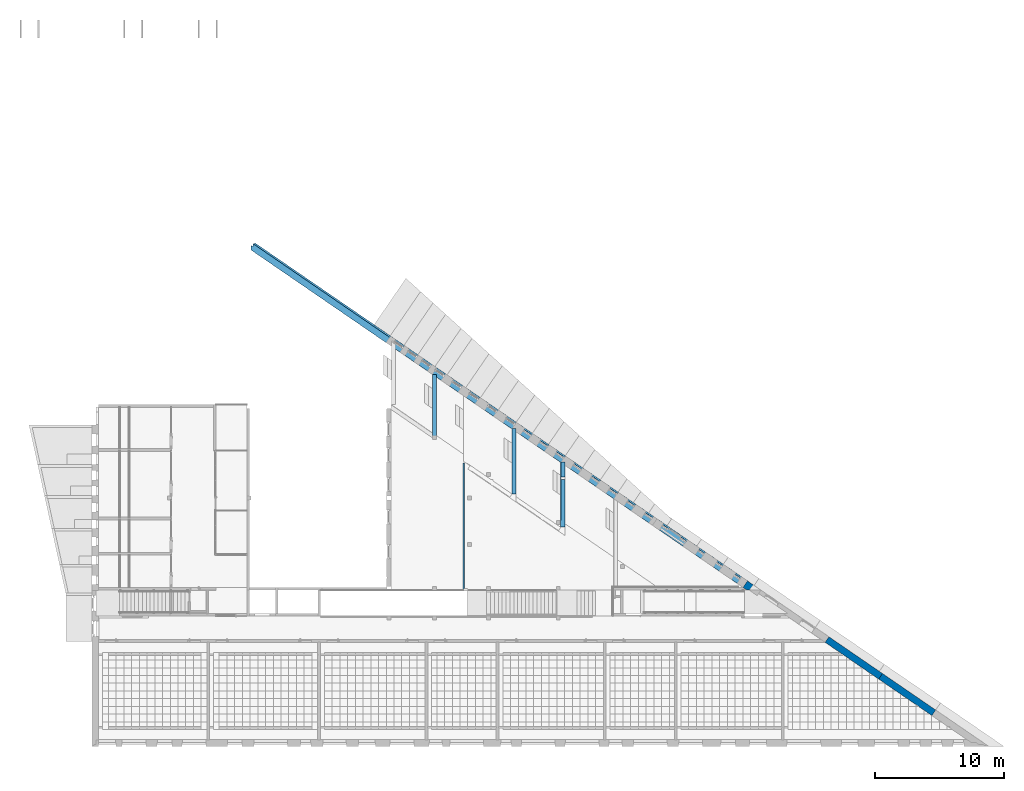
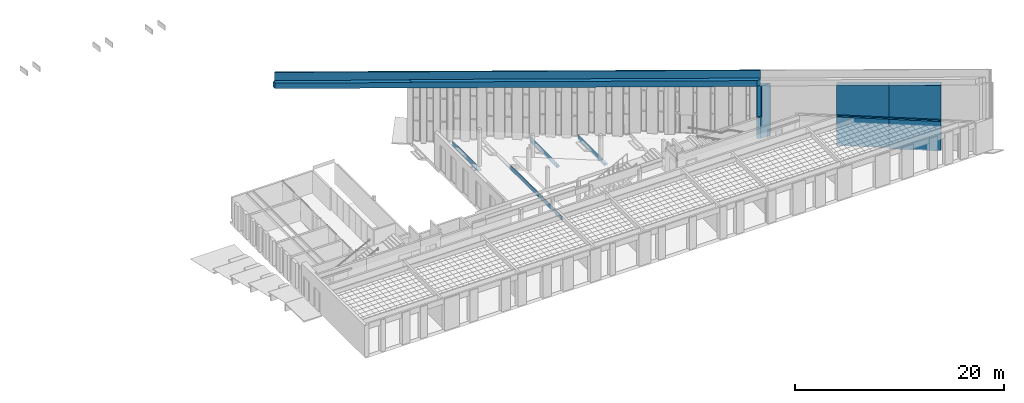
# One storey, part 45 of 79: 8 walls.
"""IFC2X3 building model written with IfcOpenShell, lengths in millimetres."""

import ifcopenshell
import ifcopenshell.guid

model = None  # the IFC model being written
_history = None  # IfcOwnerHistory: only IFC2X3 demands one
_inside = {}  # id of a spatial element -> (the spatial element, [elements in it])
_under = {}  # id of a project, library or spatial element -> (it, [spatial elements below it])
_declared = {}  # id of a project -> (the project, [libraries it declares])
_typed = {}  # id of a type object -> (the type object, [elements of that type])
_made_of = {}  # id of a material, layer set ... -> (it, [elements and type objects made of it])


def new_model(schema):
    """Start an empty IFC model of exactly this schema.

    Asked for "IFC4X3", IfcOpenShell would pick the latest addendum, in which some entities
    have other attributes; the version numbers below select the first issue.
    IFC2X3 requires an IfcOwnerHistory on every rooted entity: one is made here for all.
    """
    global model, _history
    if schema == "IFC4X3":
        model = ifcopenshell.file(schema_version=(4, 3, 0, 0))
    else:
        model = ifcopenshell.file(schema=schema)
    _inside.clear()
    _under.clear()
    _declared.clear()
    _typed.clear()
    _made_of.clear()
    _history = None
    if model.schema == "IFC2X3":
        org = make("IfcOrganization", Name="unknown")
        user = make(
            "IfcPersonAndOrganization",
            ThePerson=make("IfcPerson", FamilyName="unknown"),
            TheOrganization=org,
        )
        app = make(
            "IfcApplication",
            ApplicationDeveloper=org,
            Version="unknown",
            ApplicationFullName="unknown",
            ApplicationIdentifier="unknown",
        )
        _history = make(
            "IfcOwnerHistory",
            OwningUser=user,
            OwningApplication=app,
            ChangeAction="ADDED",
            CreationDate=0,
        )
    return model


def make(cls, **values):
    """One entity of the class cls with the attributes given. An attribute that is None is left unset."""
    return model.create_entity(
        cls, **{name: value for name, value in values.items() if value is not None}
    )


def entity(cls, *values):
    """Any entity or typed value of the class cls, its attributes in the order of the schema. None: left unset."""
    e = model.create_entity(cls)
    for i, value in enumerate(values):
        if value is not None:
            e[i] = value
    return e


def rooted(cls, **values):
    """An entity with a GlobalId (a new one), such as an element, a storey or a relation."""
    return make(cls, GlobalId=ifcopenshell.guid.new(), OwnerHistory=_history, **values)


def si_unit(unit_type, name, prefix=None):
    """IfcSIUnit, for example si_unit("LENGTHUNIT", "METRE", prefix="MILLI")."""
    return make("IfcSIUnit", UnitType=unit_type, Prefix=prefix, Name=name)


def converted_unit(unit_type, name, factor, base, dimensions=None, offset=None):
    """IfcConversionBasedUnit, such as the inch: factor (a typed value) times the base unit."""
    return make(
        "IfcConversionBasedUnit"
        if offset is None
        else "IfcConversionBasedUnitWithOffset",
        ConversionOffset=offset,
        Dimensions=None
        if dimensions is None
        else entity("IfcDimensionalExponents", *dimensions),
        UnitType=unit_type,
        Name=name,
        ConversionFactor=make(
            "IfcMeasureWithUnit", ValueComponent=factor, UnitComponent=base
        ),
    )


def derived_unit(unit_type, elements):
    """IfcDerivedUnit: a product of units, each with its exponent."""
    return make(
        "IfcDerivedUnit",
        Elements=[
            make("IfcDerivedUnitElement", Unit=unit, Exponent=power)
            for unit, power in elements
        ],
        UnitType=unit_type,
    )


def money_unit(currency):
    """IfcMonetaryUnit."""
    return make("IfcMonetaryUnit", Currency=currency)


def assignment(units):
    """IfcUnitAssignment: the units of a project."""
    return None if units is None else make("IfcUnitAssignment", Units=units)


def point(xyz):
    """IfcCartesianPoint."""
    return None if xyz is None else make("IfcCartesianPoint", Coordinates=xyz)


def direction(xyz):
    """IfcDirection."""
    return None if xyz is None else make("IfcDirection", DirectionRatios=xyz)


def frame(location, z_axis=None, x_axis=None):
    """IfcAxis2Placement3D, a coordinate frame: its origin and axes. An axis left out is left unset."""
    return make(
        "IfcAxis2Placement3D",
        Location=point(location),
        Axis=direction(z_axis),
        RefDirection=direction(x_axis),
    )


def origin_with_axes():
    """The frame at (0, 0, 0) with the z axis (0, 0, 1) and the x axis (1, 0, 0) written out."""
    return frame((0.0, 0.0, 0.0), z_axis=(0.0, 0.0, 1.0), x_axis=(1.0, 0.0, 0.0))


def place(relative_to, where):
    """IfcLocalPlacement: puts the frame where relative to a parent placement (None: the world)."""
    return make(
        "IfcLocalPlacement", PlacementRelTo=relative_to, RelativePlacement=where
    )


def context(
    kind, dimensions, precision=None, world=None, true_north=None, identifier=None
):
    """IfcGeometricRepresentationContext, for example the 3D "Model" context."""
    return make(
        "IfcGeometricRepresentationContext",
        ContextIdentifier=identifier,
        ContextType=kind,
        CoordinateSpaceDimension=dimensions,
        Precision=precision,
        WorldCoordinateSystem=world,
        TrueNorth=true_north,
    )


def subcontext(parent, identifier, kind, view, scale=None):
    """IfcGeometricRepresentationSubContext, for example "Body" below "Model"."""
    return make(
        "IfcGeometricRepresentationSubContext",
        ContextIdentifier=identifier,
        ContextType=kind,
        ParentContext=parent,
        TargetScale=scale,
        TargetView=view,
    )


def project(units=None, contexts=None):
    """IfcProject with its units and contexts."""
    return rooted(
        "IfcProject",
        Name="project",
        RepresentationContexts=contexts,
        UnitsInContext=assignment(units),
    )


def spatial(cls, under=None, at=None, **own):
    """A site, building, storey or space (cls), placed at a placement, below another one or the project."""
    s = rooted(cls, ObjectPlacement=at, **own)
    if under is not None:
        _under.setdefault(under.id(), (under, []))[1].append(s)
    return s


def faces_of(points, faces, orient=None, outer=None):
    """IfcFace entities. A face is a list of loops; a loop is a list of indices into points, from 0.

    orient and outer hold one flag for each loop. By default every Orientation is true, the
    first loop of a face is its IfcFaceOuterBound and the others are IfcFaceBound.
    """
    made = []
    for i, loops in enumerate(faces):
        bounds = []
        for j, loop in enumerate(loops):
            is_outer = j == 0 if outer is None else outer[i][j]
            bounds.append(
                make(
                    "IfcFaceOuterBound" if is_outer else "IfcFaceBound",
                    Bound=make("IfcPolyLoop", Polygon=[points[k] for k in loop]),
                    Orientation=True if orient is None else orient[i][j],
                )
            )
        made.append(make("IfcFace", Bounds=bounds))
    return made


def faceted_brep(points, faces, orient=None, outer=None, voids=None):
    """IfcFacetedBrep: a solid bounded by flat faces; with voids (closed shells), ...WithVoids."""
    shared = [point(p) for p in points]
    hull = make("IfcClosedShell", CfsFaces=faces_of(shared, faces, orient, outer))
    if voids is None:
        return make("IfcFacetedBrep", Outer=hull)
    return make(
        "IfcFacetedBrepWithVoids",
        Outer=hull,
        Voids=[
            make(cls, CfsFaces=faces_of(shared, fs, o, b)) for cls, fs, o, b in voids
        ],
    )


def shape(context_of_items, identifier, shape_type, items):
    """IfcShapeRepresentation: the items that make up one representation, for example the "Body"."""
    return make(
        "IfcShapeRepresentation",
        ContextOfItems=context_of_items,
        RepresentationIdentifier=identifier,
        RepresentationType=shape_type,
        Items=items,
    )


def material(Name=None, Category=None):
    """IfcMaterial."""
    return make("IfcMaterial", Name=Name, Category=Category)


def material_list(materials):
    """IfcMaterialList."""
    return make("IfcMaterialList", Materials=materials)


def made_of(thing, what):
    """Note that an element or type object is made of a material, layer set ...; save() writes the relation."""
    if what is not None:
        _made_of.setdefault(what.id(), (what, []))[1].append(thing)
    return thing


def type_object(cls, material=None, **own):
    """A type object (cls), such as IfcWallType, which elements share."""
    return made_of(rooted(cls, **own), material)


def element(
    cls,
    number,
    at=None,
    inside=None,
    cuts=None,
    type_object=None,
    material=None,
    context=None,
    identifier="Body",
    shape_type=None,
    held_by="IfcProductDefinitionShape",
    body=None,
    shapes=None,
    **own,
):
    """One element of the class cls, such as IfcWall. Its Tag is "e" and its number.

    at: its placement. inside: the storey or other place that contains it. cuts: it is an
    opening in that element (IfcRelVoidsElement). A single representation is given by context,
    identifier, shape_type and body (its items); several are given by shapes. held_by: the class
    of the entity that holds the representations. save() writes the other relations.
    """
    e = rooted(cls, Tag="e%d" % number, ObjectPlacement=at, **own)
    if body is not None:
        shapes = [shape(context, identifier, shape_type, body)]
    if shapes is not None:
        e.Representation = make(held_by, Representations=shapes)
    if inside is not None:
        _inside.setdefault(inside.id(), (inside, []))[1].append(e)
    if cuts is not None:
        rooted(
            "IfcRelVoidsElement", RelatingBuildingElement=cuts, RelatedOpeningElement=e
        )
    if type_object is not None:
        _typed.setdefault(type_object.id(), (type_object, []))[1].append(e)
    return made_of(e, material)


def aggregate(whole, parts):
    """IfcRelAggregates: a whole, such as a stair, and the parts it consists of."""
    return rooted("IfcRelAggregates", RelatingObject=whole, RelatedObjects=parts)


def save(model, path):
    """Write the relations noted so far, then the file.

    IfcRelAggregates (storeys below a building ...), IfcRelContainedInSpatialStructure (elements
    in a storey), IfcRelDefinesByType, IfcRelAssociatesMaterial and IfcRelDeclares: one each for
    every whole, place, type object, material and project.
    """
    for whole, parts in _under.values():
        aggregate(whole, parts)
    for where, things in _inside.values():
        rooted(
            "IfcRelContainedInSpatialStructure",
            RelatedElements=things,
            RelatingStructure=where,
        )
    for kind, things in _typed.values():
        rooted("IfcRelDefinesByType", RelatedObjects=things, RelatingType=kind)
    for what, things in _made_of.values():
        rooted("IfcRelAssociatesMaterial", RelatedObjects=things, RelatingMaterial=what)
    for by, libraries in _declared.values():
        rooted("IfcRelDeclares", RelatingContext=by, RelatedDefinitions=libraries)
    model.write(path)


model = new_model("IFC2X3")

# Units and contexts
model_context = context("Model", 3, precision=0.01, world=origin_with_axes(), true_north=direction((0.0, 1.0)))
body_context = subcontext(model_context, "Body", "Model", "MODEL_VIEW")
ifc_project = project(units=[si_unit("LENGTHUNIT", "METRE", prefix="MILLI"), si_unit("AREAUNIT", "SQUARE_METRE"), si_unit("VOLUMEUNIT", "CUBIC_METRE"), converted_unit("PLANEANGLEUNIT", "DEGREE", entity("IfcPlaneAngleMeasure", 0.0174532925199), si_unit("PLANEANGLEUNIT", "RADIAN"), dimensions=[0, 0, 0, 0, 0, 0, 0]), si_unit("SOLIDANGLEUNIT", "STERADIAN"), money_unit("EUR"), converted_unit("TIMEUNIT", "Year", entity("IfcTimeMeasure", 31556926.0), si_unit("TIMEUNIT", "SECOND"), dimensions=[0, 0, 1, 0, 0, 0, 0]), si_unit("MASSUNIT", "GRAM", prefix="KILO"), si_unit("THERMODYNAMICTEMPERATUREUNIT", "DEGREE_CELSIUS"), si_unit("LUMINOUSINTENSITYUNIT", "LUMEN"), si_unit("ENERGYUNIT", "JOULE", prefix="MEGA"), derived_unit("THERMALCONDUCTANCEUNIT", [(si_unit("POWERUNIT", "WATT"), 1), (si_unit("LENGTHUNIT", "METRE"), -1), (si_unit("THERMODYNAMICTEMPERATUREUNIT", "KELVIN"), -1)]), derived_unit("SPECIFICHEATCAPACITYUNIT", [(si_unit("ENERGYUNIT", "JOULE"), 1), (si_unit("MASSUNIT", "GRAM", prefix="KILO"), -1), (si_unit("THERMODYNAMICTEMPERATUREUNIT", "KELVIN"), -1)]), derived_unit("MASSDENSITYUNIT", [(si_unit("MASSUNIT", "GRAM", prefix="KILO"), 1), (si_unit("VOLUMEUNIT", "CUBIC_METRE"), -1)])], contexts=[model_context])

# Site, building, storey
site_placement = place(None, origin_with_axes())
site = spatial("IfcSite", under=ifc_project, at=site_placement, Name="L.Koidula tn 11b", CompositionType="ELEMENT")
building_placement = place(site_placement, origin_with_axes())
building = spatial("IfcBuilding", under=site, at=building_placement, Name="Rakvere Riigigümnaasium", CompositionType="ELEMENT")
storey_placement = place(building_placement, frame((0.0, 0.0, 3720.0), z_axis=(0.0, 0.0, 1.0), x_axis=(1.0, 0.0, 0.0)))
storey = spatial("IfcBuildingStorey", under=building, at=storey_placement, Name="2.korrus +3,72", CompositionType="ELEMENT", Elevation=3720.0)

# Walls
ifc_material_1 = material(Name="Krohv")
ifc_material_2 = material(Name="Betoon-element")
ifc_material_3 = material(Name="FF-PIR soojustus")
ifc_material_4 = material(Name="Tuuletõke (RKL Facade)")
ifc_material_5 = material(Name="Salto-roovitus")
ifc_material_6 = material(Name="Puit-fassaad")
ifc_material_list_1 = material_list([ifc_material_1, ifc_material_2, ifc_material_3, ifc_material_4, ifc_material_5, ifc_material_5, ifc_material_6])
wall_type_1 = type_object("IfcWallType", Name="VS-01-1 524", PredefinedType="NOTDEFINED")
wall_1_placement = place(storey_placement, frame((100138.361604, 7390.70532405, -171.79633169), z_axis=(0.0, 0.0, 1.0), x_axis=(-0.824666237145, 0.565619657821, 0.0)))
element("IfcWall", 1, at=wall_1_placement, inside=storey, type_object=wall_type_1, material=ifc_material_list_1, Name="Välissein", context=body_context, shape_type="Brep", body=[
    faceted_brep([(5000.00022515, 0.0, 7456.20661279), (0.0, 0.0, 7753.3891378), (0.0, 0.0, 3891.79633169), (5000.00022515, 0.0, 3891.79633169), (0.0, 10.0, 7753.3891378), (5000.00022515, 10.0, 7456.20661279), (0.0, 10.0, 3891.79633169), (5000.00022515, 10.0, 3891.79633169)], [[[0, 1, 2, 3]], [[4, 1, 0, 5]], [[1, 4, 6, 2]], [[6, 7, 3, 2]], [[5, 0, 3, 7]], [[4, 5, 7, 6]]]),
    faceted_brep([(5000.00022515, 0.0, 3496.79633169), (0.0, 0.0, 3496.79633169), (0.0, 0.0, 171.79633169), (5000.00022515, 0.0, 171.79633169), (0.0, 10.0, 3496.79633169), (5000.00022515, 10.0, 3496.79633169), (0.0, 10.0, 171.79633169), (5000.00022515, 10.0, 171.79633169)], [[[0, 1, 2, 3]], [[4, 1, 0, 5]], [[1, 4, 6, 2]], [[3, 2, 6, 7]], [[5, 0, 3, 7]], [[4, 5, 7, 6]]]),
    faceted_brep([(5000.00022515, -200.0, 7456.20661287), (0.0, -200.0, 7753.38913788), (0.0, -200.0, 41.7963316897), (5000.00022515, -200.0, 41.7963316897), (0.0, 0.0, 7753.3891378), (5000.00022515, 0.0, 7456.20661279), (0.0, 0.0, 3761.79633169), (0.0, -199.982393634, 3761.79633169), (0.0, -199.982393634, 3496.79633169), (0.0, 0.0, 3496.79633169), (0.0, 0.0, 41.7963316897), (5000.00022515, 0.0, 41.7963316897), (5000.00022515, 0.0, 3496.79633169), (5000.00022515, -199.983724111, 3496.79633169), (5000.00022515, -199.983724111, 3761.79633169), (5000.00022515, 0.0, 3761.79633169)], [[[0, 1, 2, 3]], [[4, 1, 0, 5]], [[1, 4, 6, 7, 8, 9, 10, 2]], [[10, 11, 3, 2]], [[5, 0, 3, 11, 12, 13, 14, 15]], [[4, 5, 15, 6]], [[15, 14, 7, 6]], [[14, 13, 8, 7]], [[13, 12, 9, 8]], [[11, 10, 9, 12]]]),
    faceted_brep([(5000.00022515, -380.0, 7456.20661294), (0.0, -380.0, 7753.38913796), (0.0, -380.0, 0.0), (5000.00022515, -380.0, 0.0), (0.0, -200.0, 7753.38913788), (5000.00022515, -200.0, 7456.20661287), (0.0, -200.0, 0.0), (5000.00022515, -200.0, 0.0)], [[[0, 1, 2, 3]], [[4, 1, 0, 5]], [[1, 4, 6, 2]], [[2, 6, 7, 3]], [[5, 0, 3, 7]], [[4, 5, 7, 6]]]),
    faceted_brep([(5000.00022515, -430.0, 7456.20661296), (0.0, -430.0, 7753.38913798), (0.0, -430.0, 0.0), (5000.00022515, -430.0, 0.0), (0.0, -380.0, 7753.38913796), (5000.00022515, -380.0, 7456.20661294), (0.0, -380.0, 0.0), (5000.00022515, -380.0, 0.0)], [[[0, 1, 2, 3]], [[4, 1, 0, 5]], [[1, 4, 6, 2]], [[2, 6, 7, 3]], [[5, 0, 3, 7]], [[4, 5, 7, 6]]]),
    faceted_brep([(5000.00022515, -462.0, 7456.20661298), (0.0, -462.0, 7753.38913799), (0.0, -462.0, 0.0), (5000.00022515, -462.0, 0.0), (0.0, -430.0, 7753.38913798), (5000.00022515, -430.0, 7456.20661296), (0.0, -430.0, 0.0), (5000.00022515, -430.0, 0.0)], [[[0, 1, 2, 3]], [[4, 1, 0, 5]], [[1, 4, 6, 2]], [[2, 6, 7, 3]], [[5, 0, 3, 7]], [[4, 5, 7, 6]]]),
    faceted_brep([(5000.00022515, -494.0, 7456.20661299), (0.0, -494.0, 7753.389138), (0.0, -494.0, 0.0), (5000.00022515, -494.0, 0.0), (0.0, -462.0, 7753.38913799), (5000.00022515, -462.0, 7456.20661298), (0.0, -462.0, 0.0), (5000.00022515, -462.0, 0.0)], [[[0, 1, 2, 3]], [[4, 1, 0, 5]], [[1, 4, 6, 2]], [[2, 6, 7, 3]], [[5, 0, 3, 7]], [[4, 5, 7, 6]]]),
    faceted_brep([(5000.00022515, -514.0, 7456.206613), (0.0, -514.0, 7753.38913801), (0.0, -514.0, 0.0), (5000.00022515, -514.0, 0.0), (0.0, -494.0, 7753.389138), (5000.00022515, -494.0, 7456.20661299), (0.0, -494.0, 0.0), (5000.00022515, -494.0, 0.0)], [[[0, 1, 2, 3]], [[4, 1, 0, 5]], [[1, 4, 6, 2]], [[2, 6, 7, 3]], [[5, 0, 3, 7]], [[4, 5, 7, 6]]]),
])
wall_2_placement = place(storey_placement, frame((96015.0302323, 10218.8037405, 0.0), z_axis=(0.0, 0.0, 1.0), x_axis=(-0.824666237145, 0.565619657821, 0.0)))
element("IfcWall", 2, at=wall_2_placement, inside=storey, type_object=wall_type_1, material=ifc_material_list_1, Name="Välissein", context=body_context, shape_type="Brep", body=[
    faceted_brep([(5041.63989318, 0.0, 6984.75283986), (0.0, 0.0, 7284.4102811), (0.0, 0.0, 3720.0), (5041.63989318, 0.0, 3720.0), (0.0, 10.0, 7284.4102811), (5041.63989318, 10.0, 6984.75283986), (0.0, 10.0, 3720.0), (5041.63989318, 10.0, 3720.0)], [[[0, 1, 2, 3]], [[4, 1, 0, 5]], [[1, 4, 6, 2]], [[6, 7, 3, 2]], [[5, 0, 3, 7]], [[4, 5, 7, 6]]]),
    faceted_brep([(5041.63989318, 0.0, 3325.0), (0.0, 0.0, 3325.0), (0.0, 0.0, 0.0), (5041.63989318, 0.0, 0.0), (0.0, 10.0, 3325.0), (5041.63989318, 10.0, 3325.0), (0.0, 10.0, 0.0), (5041.63989318, 10.0, 0.0)], [[[0, 1, 2, 3]], [[4, 1, 0, 5]], [[1, 4, 6, 2]], [[6, 7, 3, 2]], [[5, 0, 3, 7]], [[4, 5, 7, 6]]]),
    faceted_brep([(5041.63989318, -200.0, 6984.75283994), (0.0, -200.0, 7284.41028118), (0.0, -200.0, 0.0), (5041.63989318, -200.0, 0.0), (0.0, 0.0, 7284.4102811), (5041.63989318, 0.0, 6984.75283986), (0.0, 0.0, 3590.0), (0.0, -199.983724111, 3590.0), (0.0, -199.983724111, 3325.0), (0.0, 0.0, 3325.0), (0.0, 0.0, 0.0), (5041.63989318, 0.0, 0.0), (5041.63989318, 0.0, 3325.0), (5041.63989318, -199.985065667, 3325.0), (5041.63989318, -199.985065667, 3590.0), (5041.63989318, 0.0, 3590.0)], [[[0, 1, 2, 3]], [[4, 1, 0, 5]], [[1, 4, 6, 7, 8, 9, 10, 2]], [[3, 2, 10, 11]], [[5, 0, 3, 11, 12, 13, 14, 15]], [[4, 5, 15, 6]], [[15, 14, 7, 6]], [[14, 13, 8, 7]], [[8, 13, 12, 9]], [[11, 10, 9, 12]]]),
    faceted_brep([(5041.63989318, -380.0, 6984.75284001), (0.0, -380.0, 7284.41028125), (0.0, -380.0, 0.0), (5041.63989318, -380.0, 0.0), (0.0, -200.0, 7284.41028118), (5041.63989318, -200.0, 6984.75283994), (0.0, -200.0, 0.0), (5041.63989318, -200.0, 0.0)], [[[0, 1, 2, 3]], [[4, 1, 0, 5]], [[1, 4, 6, 2]], [[2, 6, 7, 3]], [[5, 0, 3, 7]], [[4, 5, 7, 6]]]),
    faceted_brep([(5041.63989318, -430.0, 6984.75284003), (0.0, -430.0, 7284.41028127), (0.0, -430.0, 0.0), (5041.63989318, -430.0, 0.0), (0.0, -380.0, 7284.41028125), (5041.63989318, -380.0, 6984.75284001), (0.0, -380.0, 0.0), (5041.63989318, -380.0, 0.0)], [[[0, 1, 2, 3]], [[4, 1, 0, 5]], [[1, 4, 6, 2]], [[2, 6, 7, 3]], [[5, 0, 3, 7]], [[4, 5, 7, 6]]]),
    faceted_brep([(5041.63989318, -462.0, 6984.75284005), (0.0, -462.0, 7284.41028129), (0.0, -462.0, 0.0), (5041.63989318, -462.0, 0.0), (0.0, -430.0, 7284.41028127), (5041.63989318, -430.0, 6984.75284003), (0.0, -430.0, 0.0), (5041.63989318, -430.0, 0.0)], [[[0, 1, 2, 3]], [[4, 1, 0, 5]], [[1, 4, 6, 2]], [[2, 6, 7, 3]], [[5, 0, 3, 7]], [[4, 5, 7, 6]]]),
    faceted_brep([(5041.63989318, -494.0, 6984.75284006), (0.0, -494.0, 7284.4102813), (0.0, -494.0, 0.0), (5041.63989318, -494.0, 0.0), (0.0, -462.0, 7284.41028129), (5041.63989318, -462.0, 6984.75284005), (0.0, -462.0, 0.0), (5041.63989318, -462.0, 0.0)], [[[0, 1, 2, 3]], [[4, 1, 0, 5]], [[1, 4, 6, 2]], [[2, 6, 7, 3]], [[5, 0, 3, 7]], [[4, 5, 7, 6]]]),
    faceted_brep([(5041.63989318, -514.0, 6984.75284007), (0.0, -514.0, 7284.41028131), (0.0, -514.0, 0.0), (5041.63989318, -514.0, 0.0), (0.0, -494.0, 7284.4102813), (5041.63989318, -494.0, 6984.75284006), (0.0, -494.0, 0.0), (5041.63989318, -494.0, 0.0)], [[[0, 1, 2, 3]], [[4, 1, 0, 5]], [[1, 4, 6, 2]], [[2, 6, 7, 3]], [[5, 0, 3, 7]], [[4, 5, 7, 6]]]),
])
ifc_material_list_2 = material_list([ifc_material_2, ifc_material_3, ifc_material_4, ifc_material_5, ifc_material_5, ifc_material_6])
wall_type_2 = type_object("IfcWallType", Name="VS-02 614", PredefinedType="NOTDEFINED")
wall_3_placement = place(storey_placement, frame((85790.2926748, 17110.4555416, 465.0), z_axis=(0.0, 0.0, 1.0), x_axis=(-0.824666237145, 0.565619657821, 0.0)))
element("IfcWall", 3, at=wall_3_placement, inside=storey, type_object=wall_type_2, material=ifc_material_list_2, Name="Välissein", context=body_context, shape_type="Brep", body=[
    faceted_brep([(373.15528873, -299.997277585, 6064.3762154), (39.2779555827, -299.997277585, 6084.22071629), (-437.396215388, -299.99727796, 6112.55256176), (-437.396168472, -300.0, 0.0), (373.15528873, -300.0, 0.0), (373.15528873, 0.00272252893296, 6064.37621528), (353.59841739, 0.00272252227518, 6065.53860731), (39.2779555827, -215.582473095, 6084.22071626), (-32.6748431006, -264.933247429, 6088.49733896), (-145.798774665, -99.9972775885, 6095.22102972), (-145.798774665, -100.0, 2480.0), (-2.95301276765e-05, 1.53021844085e-05, 2480.0), (0.0, 0.0, 0.0), (373.15528873, 0.0, 0.0), (353.594447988, 0.0, 2480.0), (-32.6748431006, -264.933247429, 2480.0)], [[[0, 1, 2, 3, 4]], [[1, 0, 5, 6, 7, 8, 9, 2]], [[3, 2, 9, 10, 11, 12]], [[4, 3, 12, 13]], [[5, 0, 4, 13]], [[6, 5, 13, 12, 11, 14]], [[7, 6, 14, 15, 8]], [[10, 9, 8, 15]], [[11, 10, 15, 14]]]),
    faceted_brep([(373.15528873, -479.997277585, 6064.37621547), (39.2779555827, -479.997277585, 6084.22071636), (-699.833916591, -479.997278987, 6128.15094087), (-699.833869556, -480.0, 0.0), (373.15528873, -480.0, 0.0), (373.15528873, -299.997277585, 6064.3762154), (39.2779555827, -299.997277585, 6084.22071629), (-437.396215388, -299.99727796, 6112.55256176), (-437.396168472, -300.0, 0.0), (373.15528873, -300.0, 0.0)], [[[0, 1, 2, 3, 4]], [[1, 0, 5, 6, 7, 2]], [[3, 2, 7, 8]], [[3, 8, 9, 4]], [[5, 0, 4, 9]], [[6, 5, 9, 8, 7]]]),
    faceted_brep([(373.15528873, -529.997277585, 6064.37621549), (39.2779555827, -529.997277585, 6084.22071638), (-772.733278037, -529.997278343, 6132.48382396), (-772.733230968, -530.0, 0.0), (373.15528873, -530.0, 0.0), (373.15528873, -479.997277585, 6064.37621547), (39.2779555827, -479.997277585, 6084.22071636), (-699.833916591, -479.997278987, 6128.15094087), (-699.833869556, -480.0, 0.0), (373.15528873, -480.0, 0.0)], [[[0, 1, 2, 3, 4]], [[1, 0, 5, 6, 7, 2]], [[3, 2, 7, 8]], [[3, 8, 9, 4]], [[5, 0, 4, 9]], [[6, 5, 9, 8, 7]]]),
    faceted_brep([(373.15528873, -561.997277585, 6064.37621551), (39.2779555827, -561.997277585, 6084.22071639), (-819.388869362, -561.997277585, 6135.25686913), (-819.388822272, -562.0, 0.0), (373.15528873, -562.0, 0.0), (373.15528873, -529.997277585, 6064.37621549), (39.2779555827, -529.997277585, 6084.22071638), (-772.733278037, -529.997278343, 6132.48382396), (-772.733230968, -530.0, 0.0), (373.15528873, -530.0, 0.0)], [[[0, 1, 2, 3, 4]], [[1, 0, 5, 6, 7, 2]], [[3, 2, 7, 8]], [[3, 8, 9, 4]], [[5, 0, 4, 9]], [[6, 5, 9, 8, 7]]]),
    faceted_brep([(373.15528873, -593.997277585, 6064.37621552), (39.2779555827, -593.997277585, 6084.22071641), (-866.044460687, -593.997277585, 6138.02991431), (-866.044413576, -594.0, 0.0), (373.15528873, -594.0, 0.0), (373.15528873, -561.997277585, 6064.37621551), (39.2779555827, -561.997277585, 6084.22071639), (-819.388869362, -561.997277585, 6135.25686913), (-819.388822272, -562.0, 0.0), (373.15528873, -562.0, 0.0)], [[[0, 1, 2, 3, 4]], [[1, 0, 5, 6, 7, 2]], [[3, 2, 7, 8]], [[3, 8, 9, 4]], [[5, 0, 4, 9]], [[6, 5, 9, 8, 7]]]),
    faceted_brep([(373.15528873, -614.0, 6064.37621553), (39.2779555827, -614.0, 6084.22071642), (-895.204205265, -614.0, 6139.76306754), (-895.20415814, -614.0, 0.0), (373.15528873, -614.0, 0.0), (373.15528873, -593.997277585, 6064.37621552), (39.2779555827, -593.997277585, 6084.22071641), (-866.044460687, -593.997277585, 6138.02991431), (-866.044413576, -594.0, 0.0), (373.15528873, -594.0, 0.0)], [[[0, 1, 2, 3, 4]], [[1, 0, 5, 6, 7, 2]], [[3, 2, 7, 8]], [[3, 8, 9, 4]], [[5, 0, 4, 9]], [[6, 5, 9, 8, 7]]]),
])
ifc_material_7 = material(Name="Parkett-2")
ifc_material_8 = material(Name="Viineer")
ifc_material_9 = material(Name="Betoon element / plaat")
ifc_material_list_3 = material_list([ifc_material_7, ifc_material_8, ifc_material_9])
wall_type_3 = type_object("IfcWallType", Name="SS-01-3 320", PredefinedType="NOTDEFINED")
wall_4_placement = place(storey_placement, frame((71359.9980729, 21997.8038188, -645.0), z_axis=(0.0, 0.0, 1.0), x_axis=(0.0, 1.0, 0.0)))
element("IfcWall", 4, at=wall_4_placement, inside=storey, type_object=wall_type_3, material=ifc_material_list_3, Name="Sisesein", context=body_context, shape_type="Brep", body=[
    faceted_brep([(520.949463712, 20.0000421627, 645.0), (520.949463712, 20.0000421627, 250.0), (520.949463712, 10.0, 250.0), (520.949463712, 10.0, 645.0), (5023.77736376, 20.0, 645.0), (5023.77736376, 20.0, 0.0), (3901.63341318, 20.0, 0.0), (3901.63341318, 20.0, 250.0), (3701.63341318, 20.0, 250.0), (3701.63341318, 20.0, 0.0), (0.0, 20.0, 0.0), (0.0, 20.0, 250.0), (0.0, 10.0, 250.0), (0.0, 10.0, 0.0), (3701.63341318, 10.0, 0.0), (3701.63341318, 10.0, 250.0), (3901.63341318, 10.0, 250.0), (3901.63341318, 10.0, 0.0), (5016.91857495, 10.0, 0.0), (5016.91857495, 10.0, 645.0)], [[[0, 1, 2, 3]], [[1, 0, 4, 5, 6, 7, 8, 9, 10, 11]], [[12, 2, 1, 11]], [[2, 12, 13, 14, 15, 16, 17, 18, 19, 3]], [[0, 3, 19, 4]], [[5, 4, 19, 18]], [[18, 17, 6, 5]], [[6, 17, 16, 7]], [[7, 16, 15, 8]], [[8, 15, 14, 9]], [[10, 9, 14, 13]], [[12, 11, 10, 13]]]),
    faceted_brep([(520.949463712, 10.0, 515.0), (520.949463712, 0.0, 515.0), (5010.05978614, 0.0, 515.0), (5016.91857495, 10.0, 515.0), (520.949463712, 0.0, 250.0), (520.949463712, 10.0, 250.0), (0.0, 0.0, 250.0), (0.0, 0.0, 0.0), (3701.63341318, 0.0, 0.0), (3701.63341318, 0.0, 250.0), (3901.63341318, 0.0, 250.0), (3901.63341318, 0.0, 0.0), (5010.05978614, 0.0, 0.0), (5016.91857495, 10.0, 0.0), (3901.63341318, 10.0, 0.0), (3901.63341318, 10.0, 250.0), (3701.63341318, 10.0, 250.0), (3701.63341318, 10.0, 0.0), (0.0, 10.0, 0.0), (0.0, 10.0, 250.0)], [[[0, 1, 2, 3]], [[4, 1, 0, 5]], [[4, 6, 7, 8, 9, 10, 11, 12, 2, 1]], [[3, 2, 12, 13]], [[5, 0, 3, 13, 14, 15, 16, 17, 18, 19]], [[6, 4, 5, 19]], [[6, 19, 18, 7]], [[18, 17, 8, 7]], [[16, 9, 8, 17]], [[15, 10, 9, 16]], [[14, 11, 10, 15]], [[12, 11, 14, 13]]]),
    faceted_brep([(3701.63341318, 0.0, 250.0), (0.0, 0.0, 250.0), (0.0, -300.0, 250.0), (3701.63341318, -300.0, 250.0), (3701.63341318, 0.0, 0.0), (0.0, 0.0, 0.0), (0.0, -300.0, 0.0), (3701.63341318, -300.0, 0.0)], [[[0, 1, 2, 3]], [[1, 0, 4, 5]], [[2, 1, 5, 6]], [[2, 6, 7, 3]], [[0, 3, 7, 4]], [[5, 4, 7, 6]]]),
    faceted_brep([(5048.76421209, 0.0, 250.0), (5048.76421209, -300.0, 250.0), (5048.76421209, -300.0, 0.0), (5048.76421209, 0.0, 0.0), (3901.63341318, -300.0, 250.0), (3901.63341318, 0.0, 250.0), (3901.63341318, -300.0, 0.0), (3901.63341318, 0.0, 0.0)], [[[0, 1, 2, 3]], [[4, 1, 0, 5]], [[1, 4, 6, 2]], [[2, 6, 7, 3]], [[5, 0, 3, 7]], [[4, 5, 7, 6]]]),
])
wall_5_placement = place(storey_placement, frame((61409.9996647, 28829.5740717, -2040.0), z_axis=(0.0, 0.0, 1.0), x_axis=(2.44272316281e-06, 0.999999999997, 0.0)))
element("IfcWall", 5, at=wall_5_placement, inside=storey, type_object=wall_type_3, material=ifc_material_list_3, Name="Sisesein", context=body_context, shape_type="Brep", body=[
    faceted_brep([(0.0, 10.0, 180.0), (91.3411958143, 10.0, 180.0), (91.3411958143, 10.0, 200.0), (0.0, 10.0, 200.0), (98.1851074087, 19.9789735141, 180.0), (0.0, 19.978733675, 180.0), (98.1851074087, 19.9789735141, 0.0), (98.1995280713, 20.0, 0.0), (98.1995280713, 20.0, 200.0), (0.0, 20.0, 200.0), (0.0, 20.0, 0.0), (0.0, 19.978733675, 0.0)], [[[0, 1, 2, 3]], [[4, 1, 0, 5]], [[4, 6, 7, 8, 2, 1]], [[9, 3, 2, 8]], [[5, 0, 3, 9, 10, 11]], [[6, 4, 5, 11]], [[6, 11, 10, 7]], [[10, 9, 8, 7]]]),
    faceted_brep([(5009.61365867, 10.0, 645.0), (5016.47239731, 20.0, 645.0), (474.10149563, 20.0, 645.0), (467.243163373, 10.0, 645.0), (5009.61365867, 10.0, 0.0), (5016.47239731, 20.0, 0.0), (474.10149563, 20.0, 0.0), (467.243163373, 10.0, 0.0)], [[[0, 1, 2, 3]], [[1, 0, 4, 5]], [[1, 5, 6, 2]], [[7, 3, 2, 6]], [[4, 0, 3, 7]], [[5, 4, 7, 6]]]),
    faceted_brep([(0.0, 0.0, 180.0), (84.4828635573, 0.0, 180.0), (84.4828635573, 0.0, 200.0), (0.0, 0.0, 200.0), (91.3411958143, 10.0, 180.0), (0.0, 10.0, 180.0), (91.3411958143, 10.0, 200.0), (0.0, 10.0, 200.0)], [[[0, 1, 2, 3]], [[4, 1, 0, 5]], [[1, 4, 6, 2]], [[7, 3, 2, 6]], [[5, 0, 3, 7]], [[4, 5, 7, 6]]]),
    faceted_brep([(5009.61365867, 10.0, 465.0), (5002.75492004, 0.0, 465.0), (5002.75492004, 0.0, 0.0), (5009.61365867, 10.0, 0.0), (448.258961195, 0.0, 465.0), (455.117293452, 10.0, 465.0), (448.258961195, 0.0, 0.0), (455.117293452, 10.0, 0.0)], [[[0, 1, 2, 3]], [[4, 1, 0, 5]], [[1, 4, 6, 2]], [[3, 2, 6, 7]], [[5, 0, 3, 7]], [[4, 5, 7, 6]]]),
    faceted_brep([(280.477504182, -280.020581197, 0.0), (280.476820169, 0.0, 0.0), (5016.47239731, 0.0, 0.0), (5016.47239731, -300.0, 0.0), (0.0, -300.0, 0.0), (0.0, -280.021266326, 0.0), (280.477504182, -280.020581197, 180.0), (280.476820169, 0.0, 180.0), (0.0, 0.0, 180.0), (0.0, 0.0, 200.0), (5016.47239731, 0.0, 200.0), (5016.47239731, -300.0, 200.0), (0.0, -300.0, 200.0), (0.0, -280.021266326, 180.0)], [[[0, 1, 2, 3, 4, 5]], [[1, 0, 6, 7]], [[7, 8, 9, 10, 2, 1]], [[2, 10, 11, 3]], [[11, 12, 4, 3]], [[13, 5, 4, 12, 9, 8]], [[0, 5, 13, 6]], [[13, 8, 7, 6]], [[11, 10, 9, 12]]]),
])
wall_6_placement = place(storey_placement, frame((67565.0095019, 24573.1133115, -1110.0), z_axis=(0.0, 0.0, 1.0), x_axis=(0.0, 1.0, 0.0)))
element("IfcWall", 6, at=wall_6_placement, inside=storey, type_object=wall_type_3, material=ifc_material_list_3, Name="Sisesein", context=body_context, shape_type="Brep", body=[
    faceted_brep([(5051.35913175, 20.0, 645.0), (14.3703837, 20.0, 645.0), (7.51441213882, 10.0, 645.0), (5044.5003726, 10.0, 645.0), (5051.35913175, 20.0, 0.0), (14.3703837, 20.0, 0.0), (7.51441213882, 10.0, 0.0), (5044.5003726, 10.0, 0.0)], [[[0, 1, 2, 3]], [[4, 5, 1, 0]], [[2, 1, 5, 6]], [[3, 2, 6, 7]], [[3, 7, 4, 0]], [[7, 6, 5, 4]]]),
    faceted_brep([(5044.5003726, 10.0, 465.0), (5037.64161344, 0.0, 465.0), (5037.64161344, 0.0, 0.0), (5044.5003726, 10.0, 0.0), (0.658440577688, 0.0, 465.0), (7.51441213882, 10.0, 465.0), (0.658440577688, 0.0, 0.0), (7.51441213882, 10.0, 0.0)], [[[0, 1, 2, 3]], [[4, 1, 0, 5]], [[1, 4, 6, 2]], [[3, 2, 6, 7]], [[5, 0, 3, 7]], [[4, 5, 7, 6]]]),
    faceted_brep([(5060.55792113, 0.0, 200.0), (5060.55792113, -300.0, 200.0), (5060.55792113, -300.0, 0.0), (5060.55792113, 0.0, 0.0), (0.0, -300.0, 200.0), (0.658440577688, 0.0, 200.0), (0.0, -0.960389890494, 200.0), (0.0, -300.0, 0.0), (0.658440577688, 0.0, 0.0), (0.0, -0.960389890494, 0.0)], [[[0, 1, 2, 3]], [[4, 1, 0, 5, 6]], [[1, 4, 7, 2]], [[8, 3, 2, 7, 9]], [[5, 0, 3, 8]], [[6, 5, 8, 9]], [[4, 6, 9, 7]]]),
])
ifc_material_10 = material(Name="Roovid-puit")
ifc_material_list_4 = material_list([ifc_material_2, ifc_material_3, ifc_material_4, ifc_material_10, ifc_material_10, ifc_material_10])
wall_type_4 = type_object("IfcWallType", Name="VS-10 626", PredefinedType="NOTDEFINED")
wall_7_placement = place(storey_placement, frame((85757.8999312, 17132.6696803, 3777.4289826), z_axis=(0.0, 0.0, 1.0), x_axis=(-0.824666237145, 0.565619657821, 0.0)))
element("IfcWall", 7, at=wall_7_placement, inside=storey, type_object=wall_type_4, material=ifc_material_list_4, Name="Välissein", context=body_context, shape_type="Brep", body=[
    faceted_brep([(314.316492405, -0.00272241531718, 3441.78377542), (0.0, -215.58519551, 3441.78377542), (0.0, -227.711313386, 3441.78377542), (331.996217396, -0.00272241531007, 3441.78377542), (0.0, -215.58519551, 2771.79173366), (314.320461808, 1.06965103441e-07, 2753.10962471), (0.0, -300.0, 2771.79173369), (0.0, -300.0, 3439.90722077), (0.0, -227.711313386, 3446.17352937), (332.000220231, 2.30374297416e-05, 3446.17964046), (33441.2564608, 0.00232048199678, 1478.28143509), (33441.2531904, 1.587058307e-05, 1422.97847462), (46634.5027882, 1.587058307e-05, 638.817856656), (46634.5027902, 1.58705759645e-05, 0.0), (46634.5027922, -300.0, 0.0), (46840.2659112, -300.000001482, 600.582664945), (33647.0163206, -300.0, 1384.74328261), (33647.0195911, -299.997695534, 1440.04624307), (46840.2659102, -300.0, 0.0)], [[[0, 1, 2, 3]], [[4, 1, 0, 5]], [[1, 4, 6, 7, 8, 2]], [[3, 2, 8, 9]], [[5, 0, 3, 9, 10, 11, 12, 13]], [[4, 5, 13, 14, 6]], [[15, 16, 17, 7, 6, 14, 18]], [[10, 9, 8, 7, 17]], [[11, 10, 17, 16]], [[12, 11, 16, 15]], [[18, 13, 12, 15]], [[13, 18, 14]]]),
    faceted_brep([(0.0, -480.0, 3424.30401092), (0.0, -480.0, 2771.79173376), (46634.5027934, -480.0, 0.0), (46745.45366, -480.0, 0.0), (46745.4536622, -480.000003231, 590.614763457), (33770.4741922, -480.0, 1361.80216862), (33770.4774628, -479.997695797, 1417.10512904), (0.0, -300.0, 2771.79173369), (0.0, -300.0, 3439.90722077), (46621.9957884, -300.000000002, 0.743372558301), (46634.5027923, -318.235051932, 0.0), (46621.9957895, -300.000001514, 613.555877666), (33647.0163206, -300.000000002, 1384.74328261), (33647.0195911, -299.997695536, 1440.04624307)], [[[0, 1, 2, 3, 4, 5, 6]], [[7, 1, 0, 8]], [[7, 9, 10, 2, 1]], [[10, 3, 2]], [[10, 9, 11, 4, 3]], [[4, 11, 12, 5]], [[5, 12, 13, 6]], [[6, 13, 8, 0]], [[8, 13, 12, 11, 9, 7]]]),
    faceted_brep([(14107.5859202, -530.000002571, 3483.28617042), (0.0, -530.0, 4318.23805813), (0.0, -530.0, 2771.79173378), (46634.5027937, -530.0, 0.0), (46719.1169238, -530.0, 0.0), (46719.1169297, -530.000008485, 1553.18561802), (46674.871208, -530.000008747, 1555.80428351), (46674.871208, -530.000008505, 1547.60064265), (0.0, -494.754069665, 4321.27944345), (2033.71482445, -494.75405623, 4200.91483787), (0.0, -494.754069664, 3423.02506179), (0.0, -480.0, 3424.30401092), (0.0, -480.0, 2771.79173376), (46634.5027934, -480.0, 0.0), (46684.8230706, -480.0, 0.0), (46693.9168004, -493.258541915, 1557.84751342), (46684.8230729, -480.00000325, 594.218433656), (46693.9168005, -493.258542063, 592.528624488), (46674.8712078, -493.257742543, 1558.97478826), (46674.8712078, -493.256237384, 1547.60064265), (33779.569212, -493.256727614, 2314.05228972), (33780.5960513, -494.753846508, 2313.99125798), (33780.5983682, -494.753846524, 1415.22444829), (33770.4774628, -479.997695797, 1417.10512904), (33779.5712509, -493.256322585, 1415.41530866), (33770.4741922, -480.0, 1361.80216862), (33779.5679803, -493.258626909, 1360.11234823)], [[[0, 1, 2, 3, 4, 5, 6, 7]], [[8, 1, 0, 9]], [[1, 8, 10, 11, 12, 2]], [[3, 2, 12, 13]], [[3, 13, 14, 4]], [[15, 5, 4, 14, 16, 17]], [[18, 6, 5, 15]], [[6, 18, 19, 7]], [[9, 0, 7, 19, 20, 21]], [[8, 9, 21, 22, 10]], [[23, 11, 10, 22, 24]], [[23, 25, 16, 14, 13, 12, 11]], [[25, 26, 17, 16]], [[18, 15, 17, 26, 24, 20, 19]], [[21, 20, 24, 22]], [[26, 25, 23, 24]]]),
    faceted_brep([(25069.5229412, -562.0, 2831.74697518), (0.0, -562.0, 4315.47676543), (0.0, -562.0, 2771.79173379), (46634.5027939, -562.0, 0.0), (46702.2614127, -562.0, 0.0), (46702.2614127, -562.0, 1551.42191315), (46674.8712082, -562.0, 1553.04299156), (46674.8712082, -562.0, 1547.60064265), (0.0, -530.0, 4318.23805813), (14107.5850396, -530.0, 3483.28622276), (0.0, -530.0, 2771.79173378), (46634.5027937, -530.0, 0.0), (46680.3133466, -530.0, 0.0), (46680.3133525, -530.000008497, 1555.48219237), (46674.871208, -530.000005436, 1555.8042838), (46674.871208, -530.0, 1547.60064265)], [[[0, 1, 2, 3, 4, 5, 6, 7]], [[8, 1, 0, 9]], [[1, 8, 10, 2]], [[11, 3, 2, 10]], [[4, 3, 11, 12]], [[13, 5, 4, 12]], [[14, 6, 5, 13]], [[6, 14, 15, 7]], [[9, 0, 7, 15]], [[8, 9, 15, 14, 13, 12, 11, 10]]]),
    faceted_brep([(36031.4608428, -594.0, 2180.20772761), (0.0, -594.0, 4312.71547273), (0.0, -594.0, 2771.79173381), (46634.5027942, -594.0, 0.0), (46685.4059016, -594.0, 0.0), (46685.4059016, -594.0, 1549.6582072), (46674.8712084, -594.0, 1550.28169884), (46674.8712084, -594.0, 1547.60064265), (0.0, -562.0, 4315.47676543), (25069.5229412, -562.0, 2831.74697518), (0.0, -562.0, 2771.79173379), (46634.5027939, -562.0, 0.0), (46663.4578355, -562.0, 0.0), (46674.8712083, -578.640551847, 1551.60707173), (46663.4578355, -562.0, 1548.27901361), (46674.8712083, -578.640551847, 1547.60064265)], [[[0, 1, 2, 3, 4, 5, 6, 7]], [[8, 1, 0, 9]], [[1, 8, 10, 2]], [[11, 3, 2, 10]], [[4, 3, 11, 12]], [[13, 5, 4, 12, 14, 15]], [[13, 6, 5]], [[6, 13, 15, 7]], [[9, 0, 7, 15, 14]], [[8, 9, 14, 12, 11, 10]]]),
    faceted_brep([(46668.5503904, -626.0, 1547.89450125), (0.0, -626.0, 4309.95418003), (0.0, -626.0, 2771.79173382), (46634.5027944, -626.0, 0.0), (46668.5503904, -626.0, 0.0), (0.0, -594.0, 4312.71547273), (46667.898672, -625.049802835, 1548.01506584), (36031.4608428, -594.0, 2180.20772761), (0.0, -594.0, 2771.79173381), (46634.5027942, -594.0, 0.0), (46646.6023244, -594.0, 0.0), (46646.6023244, -594.0, 1549.28084625)], [[[0, 1, 2, 3, 4]], [[5, 1, 0, 6, 7]], [[1, 5, 8, 2]], [[9, 3, 2, 8]], [[4, 3, 9, 10]], [[6, 0, 4, 10, 11]], [[7, 6, 11]], [[5, 7, 11, 10, 9, 8]]]),
])
ifc_material_11 = material(Name="mineraalvill+karkass-trepistik")
ifc_material_list_5 = material_list([ifc_material_7, ifc_material_11])
wall_type_5 = type_object("IfcWallType", Name="SS-09-2 86", PredefinedType="NOTDEFINED")
wall_8_placement = place(storey_placement, frame((63810.020931, 17140.9653402, -1395.0), z_axis=(0.0, 0.0, 1.0), x_axis=(0.0, 1.0, 0.0)))
element("IfcWall", 8, at=wall_8_placement, inside=storey, type_object=wall_type_5, material=ifc_material_list_5, Name="Sisesein", context=body_context, shape_type="Brep", body=[
    faceted_brep([(9801.72076582, 0.0, 465.0), (9801.72076582, 20.0, 465.0), (-30.5009388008, 20.0, 465.0), (-30.5000000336, 0.0, 465.0), (9801.72076582, 0.0, 0.0), (9801.72076582, 20.0, 0.0), (-30.5009388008, 20.0, 0.0), (-30.5000000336, 0.0, 0.0)], [[[0, 1, 2, 3]], [[0, 4, 5, 1]], [[1, 5, 6, 2]], [[3, 2, 6, 7]], [[4, 0, 3, 7]], [[5, 4, 7, 6]]]),
    faceted_brep([(9801.72076582, -66.0, 465.0), (9801.72076582, 0.0, 465.0), (-30.5000000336, 0.0, 465.0), (-30.4969021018, -66.0, 465.0), (9801.72076582, -66.0, 0.0), (9801.72076582, 0.0, 0.0), (-30.5000000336, 0.0, 0.0), (-30.4969021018, -66.0, 0.0)], [[[0, 1, 2, 3]], [[0, 4, 5, 1]], [[1, 5, 6, 2]], [[3, 2, 6, 7]], [[4, 0, 3, 7]], [[5, 4, 7, 6]]]),
])

save(model, "model.ifc")
